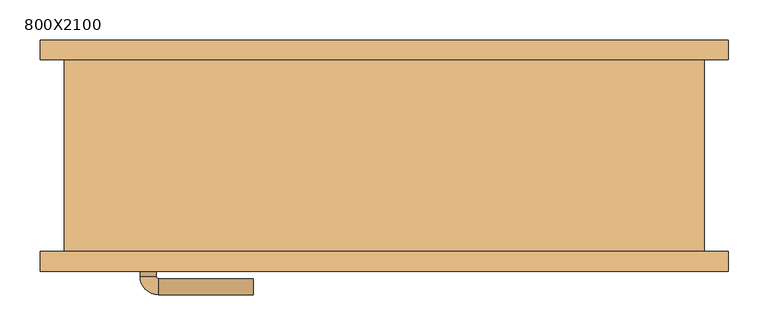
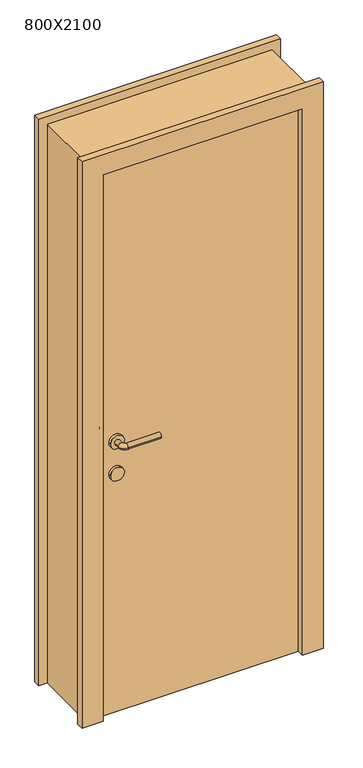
"""IFC4 building model written with IfcOpenShell, lengths in millimetres: door geometry, 单嵌板木门 1 : 800X2100."""

from ifc_helpers import new_model, si_unit, point, frame, frame_2d, origin, origin_with_axes, place, context, project, spatial, polyline, circle_curve, ellipse_curve, trimmed, segment, composite_curve, outline, extrude, source, transform, mapped, element, save
from ifc_brep_helpers import plane_surface, cylinder_surface, revolved_surface, advanced_brep


def door_800x2100_b0ab4c72(model_context):
    return source(origin(), model_context, "Body", "SolidModel", [
        extrude(outline(composite_curve([segment(trimmed(circle_curve(frame_2d((900.0, -295.0)), 25.0), [point((900.0, -270.0))], [point((900.0, -320.0))], False, "CARTESIAN"), True, "CONTINUOUS"), segment(trimmed(circle_curve(frame_2d((900.0, -295.0)), 25.0), [point((900.0, -320.0))], [point((900.0, -270.0))], False, "CARTESIAN"), True, "CONTINUOUS")], self_intersect=False)), frame((0.0, -70.0, 0.0), z_axis=(0.0, 1.0, 0.0), x_axis=(0.0, 0.0, 1.0)), (0.0, 0.0, 1.0), 10.0),
        extrude(outline(composite_curve([segment(trimmed(circle_curve(frame_2d((900.0, -295.0)), 25.0), [point((900.0, -270.0))], [point((900.0, -320.0))], False, "CARTESIAN"), True, "CONTINUOUS"), segment(trimmed(circle_curve(frame_2d((900.0, -295.0)), 25.0), [point((900.0, -320.0))], [point((900.0, -270.0))], False, "CARTESIAN"), True, "CONTINUOUS")], self_intersect=False)), frame((0.0, -130.0, 0.0), z_axis=(0.0, 1.0, 0.0), x_axis=(0.0, 0.0, 1.0)), (0.0, 0.0, 1.0), 10.0),
        advanced_brep(
        [(-305.0, -60.0, 1020.0), (-285.0, -60.0, 1020.0), (-305.0, -39.386645, 1020.0), (-285.0, -39.386645, 1020.0), (-163.419036, -16.419036, 1020.0), (-163.419036, -36.419036, 1020.0), (-282.0323911, -36.419036, 1020.0), (-282.0323911, -16.419036, 1020.0)],
        [
            (0, 1, circle_curve(frame((-295.0, -60.0, 1020.0), z_axis=(0.0, -1.0, 0.0), x_axis=(1.0, 0.0, 0.0)), 10.0)),
            (1, 0, circle_curve(frame((-295.0, -60.0, 1020.0), z_axis=(0.0, -1.0, 0.0), x_axis=(1.0, 0.0, 0.0)), 10.0)),
            (0, 2),
            (2, 3, circle_curve(frame((-295.0, -39.386645, 1020.0), z_axis=(0.0, -1.0, 0.0), x_axis=(1.0, 0.0, 0.0)), 10.0)),
            (3, 1),
            (3, 2, circle_curve(frame((-295.0, -39.386645, 1020.0), z_axis=(0.0, -1.0, 0.0), x_axis=(1.0, 0.0, 0.0)), 10.0)),
            (4, 5, circle_curve(frame((-163.419036, -26.419036, 1020.0), z_axis=(1.0, 0.0, 0.0), x_axis=(0.0, -1.0, 0.0)), 10.0)),
            (5, 4, circle_curve(frame((-163.419036, -26.419036, 1020.0), z_axis=(1.0, 0.0, 0.0), x_axis=(0.0, -1.0, 0.0)), 10.0)),
            (6, 7, circle_curve(frame((-282.0323911, -26.419036, 1020.0), z_axis=(-1.0, 0.0, 0.0), x_axis=(0.0, -1.0, 0.0)), 10.0)),
            (7, 2, circle_curve(frame((-282.0323911, -39.386645, 1020.0), z_axis=(0.0, 0.0, 1.0), x_axis=(-1.0, 0.0, 0.0)), 22.9676089)),
            (3, 6, circle_curve(frame((-282.0323911, -39.386645, 1020.0), z_axis=(0.0, 0.0, -1.0), x_axis=(-1.0, 0.0, 0.0)), 2.9676089)),
            (7, 6, circle_curve(frame((-282.0323911, -26.419036, 1020.0), z_axis=(-1.0, 0.0, 0.0), x_axis=(0.0, -1.0, 0.0)), 10.0)),
            (6, 5),
            (4, 7),
        ],
        [
            plane_surface(frame((-295.0, -60.0, 900.0), z_axis=(0.0, -1.0, 0.0), x_axis=(0.0, 0.0, 1.0))),
            cylinder_surface(frame((-295.0, -60.0, 1020.0), z_axis=(0.0, -1.0, 0.0), x_axis=(1.0, 0.0, 0.0)), 10.0),
            plane_surface(frame((-163.419036, -26.419036, 900.0), z_axis=(1.0, 0.0, 0.0), x_axis=(0.0, 0.0, 1.0))),
            revolved_surface(trimmed(ellipse_curve(frame((-295.0, -39.386645, 1020.0), z_axis=(0.0, 1.0, 0.0), x_axis=(1.0, 0.0, 0.0)), 10.0, 10.0), [point((-305.0, -39.386645, 1020.0))], [point((-285.0, -39.386645, 1020.0))], True, "CARTESIAN"), (-282.0323911, -39.386645, 900.0), (0.0, 0.0, 1.0)),
            revolved_surface(trimmed(ellipse_curve(frame((-295.0, -39.386645, 1020.0), z_axis=(0.0, 1.0, 0.0), x_axis=(1.0, 0.0, 0.0)), 10.0, 10.0), [point((-285.0, -39.386645, 1020.0))], [point((-305.0, -39.386645, 1020.0))], True, "CARTESIAN"), (-282.0323911, -39.386645, 900.0), (0.0, 0.0, 1.0)),
            cylinder_surface(frame((-282.0323911, -26.419036, 1020.0), z_axis=(-1.0, 0.0, 0.0), x_axis=(0.0, -1.0, 0.0)), 10.0),
        ],
        [
            (0, [[1, 2]]),
            (1, [[3, 4, 5, -1]]),
            (1, [[-5, 6, -3, -2]]),
            (2, [[7, 8]]),
            (3, [[9, 10, -6, 11]]),
            (4, [[12, -11, -4, -10]]),
            (5, [[13, -7, 14, -9]]),
            (5, [[-14, -8, -13, -12]]),
        ],
    ),
        extrude(outline(composite_curve([segment(trimmed(circle_curve(frame_2d((1020.0, -295.0)), 25.0), [point((1020.0, -270.0))], [point((1020.0, -320.0))], False, "CARTESIAN"), True, "CONTINUOUS"), segment(trimmed(circle_curve(frame_2d((1020.0, -295.0)), 25.0), [point((1020.0, -320.0))], [point((1020.0, -270.0))], False, "CARTESIAN"), True, "CONTINUOUS")], self_intersect=False)), frame((0.0, -70.0, 0.0), z_axis=(0.0, 1.0, 0.0), x_axis=(0.0, 0.0, 1.0)), (0.0, 0.0, 1.0), 10.0),
        advanced_brep(
        [(-285.0, -130.0, 1020.0), (-305.0, -130.0, 1020.0), (-305.0, -150.6133551, 1020.0), (-285.0, -150.6133551, 1020.0), (-163.419036, -153.580964, 1020.0), (-163.419036, -173.580964, 1020.0), (-282.0323911, -173.580964, 1020.0), (-282.0323911, -153.580964, 1020.0)],
        [
            (0, 1, circle_curve(frame((-295.0, -130.0, 1020.0), z_axis=(0.0, 1.0, 0.0), x_axis=(-1.0, 0.0, 0.0)), 10.0)),
            (1, 0, circle_curve(frame((-295.0, -130.0, 1020.0), z_axis=(0.0, 1.0, 0.0), x_axis=(-1.0, 0.0, 0.0)), 10.0)),
            (1, 2),
            (2, 3, circle_curve(frame((-295.0, -150.6133551, 1020.0), z_axis=(0.0, 1.0, 0.0), x_axis=(-1.0, 0.0, 0.0)), 10.0)),
            (3, 0),
            (3, 2, circle_curve(frame((-295.0, -150.6133551, 1020.0), z_axis=(0.0, 1.0, 0.0), x_axis=(-1.0, 0.0, 0.0)), 10.0)),
            (4, 5, circle_curve(frame((-163.419036, -163.580964, 1020.0), z_axis=(1.0, 0.0, 0.0), x_axis=(0.0, -1.0, 0.0)), 10.0)),
            (5, 4, circle_curve(frame((-163.419036, -163.580964, 1020.0), z_axis=(1.0, 0.0, 0.0), x_axis=(0.0, -1.0, 0.0)), 10.0)),
            (6, 7, circle_curve(frame((-282.0323911, -163.580964, 1020.0), z_axis=(-1.0, 0.0, 0.0), x_axis=(0.0, -1.0, 0.0)), 10.0)),
            (7, 3, circle_curve(frame((-282.0323911, -150.6133551, 1020.0), z_axis=(0.0, 0.0, -1.0), x_axis=(-1.0, 0.0, 0.0)), 2.9676089)),
            (2, 6, circle_curve(frame((-282.0323911, -150.6133551, 1020.0), z_axis=(0.0, 0.0, 1.0), x_axis=(-1.0, 0.0, 0.0)), 22.9676089)),
            (7, 6, circle_curve(frame((-282.0323911, -163.580964, 1020.0), z_axis=(-1.0, 0.0, 0.0), x_axis=(0.0, -1.0, 0.0)), 10.0)),
            (6, 5),
            (4, 7),
        ],
        [
            plane_surface(frame((-295.0, -130.0, 900.0), z_axis=(0.0, 1.0, 0.0), x_axis=(0.0, 0.0, 1.0))),
            cylinder_surface(frame((-295.0, -130.0, 1020.0), z_axis=(0.0, 1.0, 0.0), x_axis=(-1.0, 0.0, 0.0)), 10.0),
            plane_surface(frame((-163.419036, -163.580964, 900.0), z_axis=(1.0, 0.0, 0.0), x_axis=(0.0, 0.0, 1.0))),
            revolved_surface(trimmed(ellipse_curve(frame((-295.0, -150.6133551, 1020.0), z_axis=(0.0, -1.0, 0.0), x_axis=(-1.0, 0.0, 0.0)), 10.0, 10.0), [point((-285.0, -150.6133551, 1020.0))], [point((-305.0, -150.6133551, 1020.0))], True, "CARTESIAN"), (-282.0323911, -150.6133551, 900.0), (0.0, 0.0, -1.0)),
            revolved_surface(trimmed(ellipse_curve(frame((-295.0, -150.6133551, 1020.0), z_axis=(0.0, -1.0, 0.0), x_axis=(-1.0, 0.0, 0.0)), 10.0, 10.0), [point((-305.0, -150.6133551, 1020.0))], [point((-285.0, -150.6133551, 1020.0))], True, "CARTESIAN"), (-282.0323911, -150.6133551, 900.0), (0.0, 0.0, -1.0)),
            cylinder_surface(frame((-282.0323911, -163.580964, 1020.0), z_axis=(-1.0, 0.0, 0.0), x_axis=(0.0, -1.0, 0.0)), 10.0),
        ],
        [
            (0, [[1, 2]]),
            (1, [[3, 4, 5, -2]]),
            (1, [[-5, 6, -3, -1]]),
            (2, [[7, 8]]),
            (3, [[9, 10, -4, 11]]),
            (4, [[12, -11, -6, -10]]),
            (5, [[13, -7, 14, -9]]),
            (5, [[-14, -8, -13, -12]]),
        ],
    ),
        extrude(outline(composite_curve([segment(trimmed(circle_curve(frame_2d((1020.0, -295.0)), 25.0), [point((1020.0, -270.0))], [point((1020.0, -320.0))], False, "CARTESIAN"), True, "CONTINUOUS"), segment(trimmed(circle_curve(frame_2d((1020.0, -295.0)), 25.0), [point((1020.0, -320.0))], [point((1020.0, -270.0))], False, "CARTESIAN"), True, "CONTINUOUS")], self_intersect=False)), frame((0.0, -130.0, 0.0), z_axis=(0.0, 1.0, 0.0), x_axis=(0.0, 0.0, 1.0)), (0.0, 0.0, 1.0), 10.0),
        extrude(outline(polyline([(0.0, 430.0), (2130.0, 430.0), (2130.0, -430.0), (0.0, -430.0), (0.0, -355.0), (2055.0, -355.0), (2055.0, 355.0), (0.0, 355.0), (0.0, 430.0)])), frame((0.0, -145.0, 0.0), z_axis=(0.0, 1.0, 0.0), x_axis=(0.0, 0.0, 1.0)), (0.0, 0.0, 1.0), 25.0),
        extrude(outline(polyline([(2130.0, 430.0), (2130.0, -430.0), (0.0, -430.0), (0.0, -355.0), (2055.0, -355.0), (2055.0, 355.0), (0.0, 355.0), (0.0, 430.0), (2130.0, 430.0)])), frame((0.0, 120.0, 0.0), z_axis=(0.0, 1.0, 0.0), x_axis=(0.0, 0.0, 1.0)), (0.0, 0.0, 1.0), 25.0),
        extrude(outline(polyline([(355.0, -70.0), (355.0, -120.0), (-355.0, -120.0), (-355.0, -70.0), (355.0, -70.0)])), origin_with_axes(), (0.0, 0.0, 1.0), 2055.0),
        extrude(outline(polyline([(2100.0, -400.0), (0.0, -400.0), (0.0, -355.0), (2055.0, -355.0), (2055.0, 355.0), (0.0, 355.0), (0.0, 400.0), (2100.0, 400.0), (2100.0, -400.0)])), frame((0.0, -120.0, 0.0), z_axis=(0.0, 1.0, 0.0), x_axis=(0.0, 0.0, 1.0)), (0.0, 0.0, 1.0), 240.0),
    ])


if __name__ == "__main__":
    model = new_model("IFC4")
    model_context = context("Model", 3, world=origin())
    ifc_project = project(units=[si_unit("LENGTHUNIT", "METRE", prefix="MILLI")], contexts=[model_context])
    site = spatial("IfcSite", under=ifc_project)
    building = spatial("IfcBuilding", under=site)
    placement = place(None, origin())
    door_800x2100_shape = door_800x2100_b0ab4c72(model_context)
    element("IfcDoor", 1, ObjectType="单嵌板木门 1 : 800X2100", at=placement, inside=building, context=model_context, shape_type="MappedRepresentation", body=[
        mapped(door_800x2100_shape, transform((0.0, 0.0, 0.0), x_axis=(1.0, 0.0, 0.0), y_axis=(0.0, 1.0, 0.0), z_axis=(0.0, 0.0, 1.0))),
    ])
    save(model, "model.ifc")
